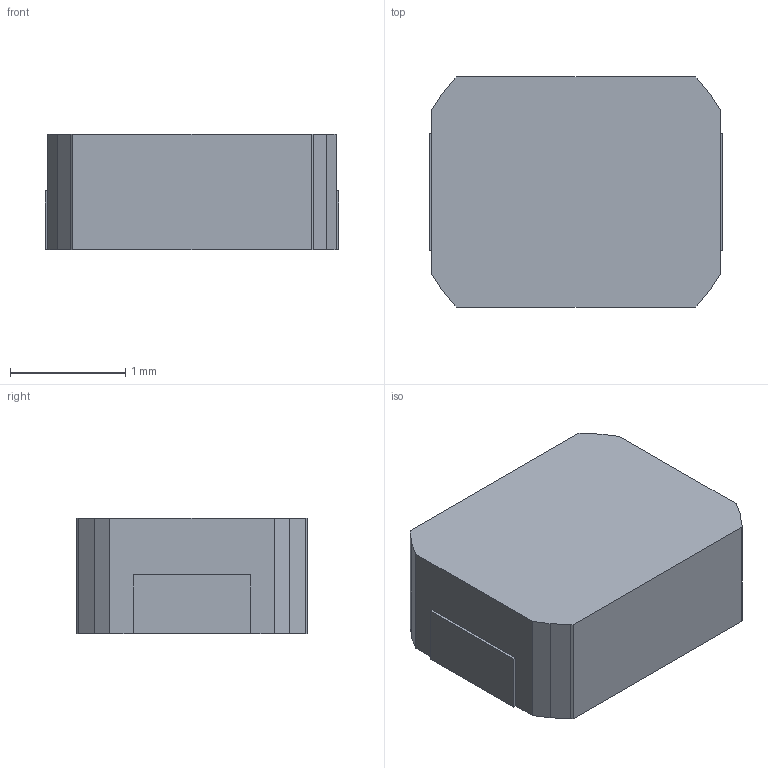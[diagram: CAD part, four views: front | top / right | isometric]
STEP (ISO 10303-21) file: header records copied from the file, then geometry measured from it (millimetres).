
FILE_DESCRIPTION(('FreeCAD Model'),'2;1');
FILE_NAME('Open CASCADE Shape Model','2021-06-28T23:32:40',('Author'),( ''),'Open CASCADE STEP processor 7.5','FreeCAD','Unknown');
FILE_SCHEMA(('AUTOMOTIVE_DESIGN { 1 0 10303 214 1 1 1 1 }'));
Length unit declared in the file: millimetre
Products named in the file (4): RLC; intersection; cube001; cube002
Assembly tree (3 placements, depth 2):
  RLC
    intersection
    cube001
    cube002
Bounding box: 2.55 x 2 x 1 mm (x, y, z)
Surface area: 26.4 mm2
Topology: 3 solids, 3 shells, 42 faces, 104 edges, 68 vertices
Faces by surface type: plane 32, bspline 10
Entity records: 2724 total; most frequent: CARTESIAN_POINT 608, DIRECTION 234, ORIENTED_EDGE 208, PCURVE 208, DEFINITIONAL_REPRESENTATION 208, LINE 162, VECTOR 162, B_SPLINE_CURVE_WITH_KNOTS 150
